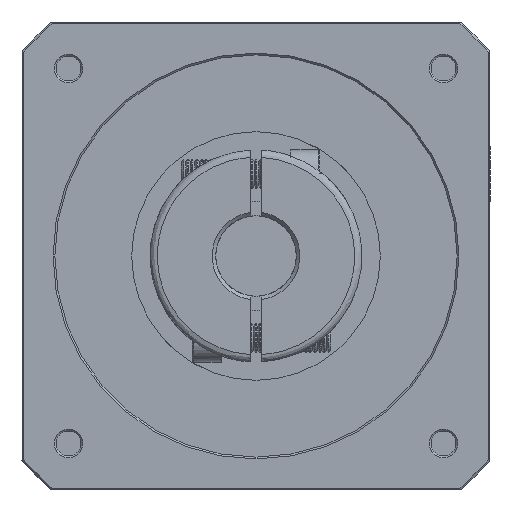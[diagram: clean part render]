
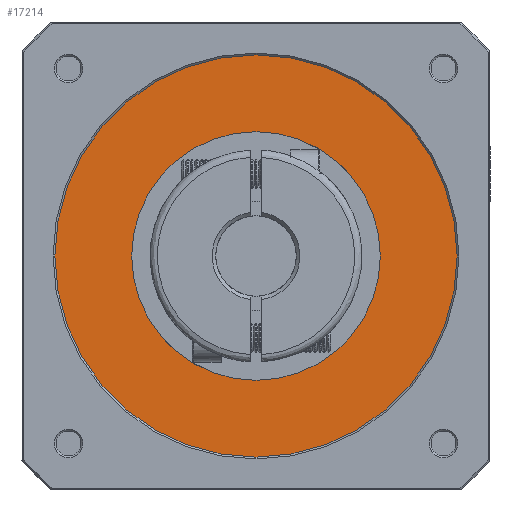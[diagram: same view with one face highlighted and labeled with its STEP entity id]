
A CAD part, front view. The second image highlights one B-rep face of the part: STEP entity #17214.
In plain terms, the highlighted planar face has unit normal (0, 1, 0).
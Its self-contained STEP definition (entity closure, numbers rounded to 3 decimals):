
#2271 = ORIENTED_EDGE ( 'NONE', *, *, #81808, .T. ) ;
#6830 = AXIS2_PLACEMENT_3D ( 'NONE', #52799, #6958, #60505 ) ;
#6958 = DIRECTION ( 'NONE',  ( 0., -1., 0. ) ) ;
#10745 = DIRECTION ( 'NONE',  ( 0., -1., 0. ) ) ;
#11850 = FACE_BOUND ( 'NONE', #42364, .T. ) ;
#12377 = CARTESIAN_POINT ( 'NONE',  ( 0., -96.611, 34. ) ) ;
#17214 = ADVANCED_FACE ( 'NONE', ( #11850, #32216 ), #63962, .F. ) ;
#18137 = CARTESIAN_POINT ( 'NONE',  ( 0., -96.611, 55. ) ) ;
#20192 = ORIENTED_EDGE ( 'NONE', *, *, #35743, .T. ) ;
#21580 = VERTEX_POINT ( 'NONE', #59855 ) ;
#21930 = EDGE_CURVE ( 'NONE', #38416, #21580, #33677, .T. ) ;
#25466 = AXIS2_PLACEMENT_3D ( 'NONE', #56585, #10745, #64267 ) ;
#31932 = AXIS2_PLACEMENT_3D ( 'NONE', #86464, #40521, #94146 ) ;
#32216 = FACE_OUTER_BOUND ( 'NONE', #88836, .T. ) ;
#33677 = CIRCLE ( 'NONE', #31932, 34. ) ;
#35108 = CARTESIAN_POINT ( 'NONE',  ( 0., -96.611, 0. ) ) ;
#35743 = EDGE_CURVE ( 'NONE', #84337, #49568, #64051, .T. ) ;
#38416 = VERTEX_POINT ( 'NONE', #12377 ) ;
#39296 = DIRECTION ( 'NONE',  ( 0., 1., 0. ) ) ;
#40521 = DIRECTION ( 'NONE',  ( 0., -1., 0. ) ) ;
#41858 = ORIENTED_EDGE ( 'NONE', *, *, #85643, .T. ) ;
#42364 = EDGE_LOOP ( 'NONE', ( #81051, #2271 ) ) ;
#42842 = DIRECTION ( 'NONE',  ( 0., 0., -1. ) ) ;
#43084 = CIRCLE ( 'NONE', #6830, 34. ) ;
#49568 = VERTEX_POINT ( 'NONE', #72699 ) ;
#52799 = CARTESIAN_POINT ( 'NONE',  ( 0., -96.611, 0. ) ) ;
#53865 = AXIS2_PLACEMENT_3D ( 'NONE', #85237, #39296, #92925 ) ;
#56585 = CARTESIAN_POINT ( 'NONE',  ( -55.66, -96.611, -55.66 ) ) ;
#57865 = CIRCLE ( 'NONE', #53865, 55. ) ;
#59855 = CARTESIAN_POINT ( 'NONE',  ( 0., -96.611, -34. ) ) ;
#60505 = DIRECTION ( 'NONE',  ( 0., 0., 1. ) ) ;
#63962 = PLANE ( 'NONE',  #25466 ) ;
#64051 = CIRCLE ( 'NONE', #68028, 55. ) ;
#64267 = DIRECTION ( 'NONE',  ( 1., 0., 0. ) ) ;
#68028 = AXIS2_PLACEMENT_3D ( 'NONE', #35108, #88789, #42842 ) ;
#72699 = CARTESIAN_POINT ( 'NONE',  ( 0., -96.611, -55. ) ) ;
#81051 = ORIENTED_EDGE ( 'NONE', *, *, #21930, .T. ) ;
#81808 = EDGE_CURVE ( 'NONE', #21580, #38416, #43084, .T. ) ;
#84337 = VERTEX_POINT ( 'NONE', #18137 ) ;
#85237 = CARTESIAN_POINT ( 'NONE',  ( 0., -96.611, 0. ) ) ;
#85643 = EDGE_CURVE ( 'NONE', #49568, #84337, #57865, .T. ) ;
#86464 = CARTESIAN_POINT ( 'NONE',  ( 0., -96.611, 0. ) ) ;
#88789 = DIRECTION ( 'NONE',  ( 0., 1., 0. ) ) ;
#88836 = EDGE_LOOP ( 'NONE', ( #41858, #20192 ) ) ;
#92925 = DIRECTION ( 'NONE',  ( 0., 0., -1. ) ) ;
#94146 = DIRECTION ( 'NONE',  ( 0., 0., 1. ) ) ;
